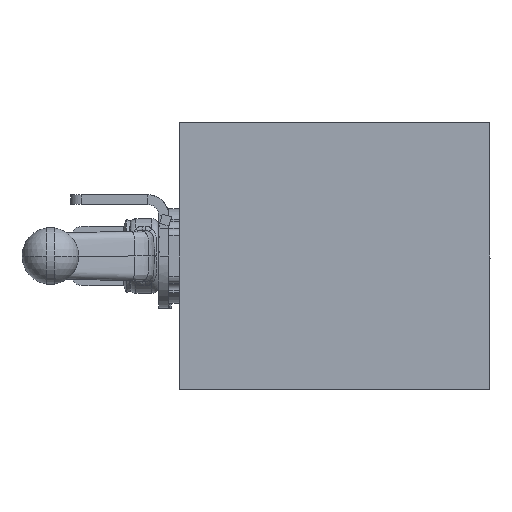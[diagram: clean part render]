
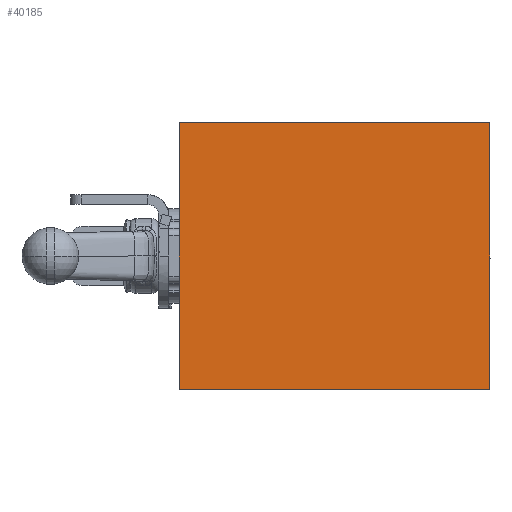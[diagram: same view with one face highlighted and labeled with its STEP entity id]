
A CAD part, left-side view. The second image highlights one B-rep face of the part: STEP entity #40185.
In plain terms, the highlighted planar face has unit normal (-1, 0, 0).
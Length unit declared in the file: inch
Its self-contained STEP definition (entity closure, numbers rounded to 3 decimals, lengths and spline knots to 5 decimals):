
#68 = CARTESIAN_POINT ( 'NONE',  ( 22.34452, 34.26161, 51.85209 ) ) ;
#884 = EDGE_CURVE ( 'NONE', #18408, #36555, #41052, .T. ) ;
#3804 = ORIENTED_EDGE ( 'NONE', *, *, #3879, .T. ) ;
#3879 = EDGE_CURVE ( 'NONE', #32137, #18408, #31018, .T. ) ;
#6045 = ORIENTED_EDGE ( 'NONE', *, *, #17683, .F. ) ;
#6949 = DIRECTION ( 'NONE',  ( 0., 0., 1. ) ) ;
#9610 = CARTESIAN_POINT ( 'NONE',  ( 22.34452, 39.51161, 51.85209 ) ) ;
#10978 = CARTESIAN_POINT ( 'NONE',  ( 22.34452, 39.51161, 51.85209 ) ) ;
#12542 = VECTOR ( 'NONE', #6949, 39.37008 ) ;
#13869 = VECTOR ( 'NONE', #16489, 39.37008 ) ;
#16489 = DIRECTION ( 'NONE',  ( 0., 1., 0. ) ) ;
#17683 = EDGE_CURVE ( 'NONE', #32137, #24845, #41200, .T. ) ;
#18408 = VERTEX_POINT ( 'NONE', #18521 ) ;
#18521 = CARTESIAN_POINT ( 'NONE',  ( 22.34452, 34.26161, 56.35209 ) ) ;
#20773 = PLANE ( 'NONE',  #21966 ) ;
#21022 = DIRECTION ( 'NONE',  ( 0., 0., -1. ) ) ;
#21842 = ORIENTED_EDGE ( 'NONE', *, *, #884, .T. ) ;
#21966 = AXIS2_PLACEMENT_3D ( 'NONE', #68, #37682, #21022 ) ;
#23803 = EDGE_CURVE ( 'NONE', #24845, #36555, #51844, .T. ) ;
#24845 = VERTEX_POINT ( 'NONE', #9610 ) ;
#26974 = CARTESIAN_POINT ( 'NONE',  ( 22.34452, 34.26161, 51.85209 ) ) ;
#29357 = FACE_OUTER_BOUND ( 'NONE', #37132, .T. ) ;
#31018 = LINE ( 'NONE', #26974, #44460 ) ;
#31574 = ORIENTED_EDGE ( 'NONE', *, *, #23803, .F. ) ;
#32137 = VERTEX_POINT ( 'NONE', #50320 ) ;
#32884 = CARTESIAN_POINT ( 'NONE',  ( 22.34452, 34.26161, 51.85209 ) ) ;
#36555 = VERTEX_POINT ( 'NONE', #40715 ) ;
#37132 = EDGE_LOOP ( 'NONE', ( #21842, #31574, #6045, #3804 ) ) ;
#37682 = DIRECTION ( 'NONE',  ( 1., 0., 0. ) ) ;
#40185 = ADVANCED_FACE ( 'NONE', ( #29357 ), #20773, .F. ) ;
#40518 = CARTESIAN_POINT ( 'NONE',  ( 22.34452, 34.26161, 56.35209 ) ) ;
#40715 = CARTESIAN_POINT ( 'NONE',  ( 22.34452, 39.51161, 56.35209 ) ) ;
#41052 = LINE ( 'NONE', #40518, #41749 ) ;
#41200 = LINE ( 'NONE', #32884, #13869 ) ;
#41749 = VECTOR ( 'NONE', #44566, 39.37008 ) ;
#43382 = DIRECTION ( 'NONE',  ( 0., 0., 1. ) ) ;
#44460 = VECTOR ( 'NONE', #43382, 39.37008 ) ;
#44566 = DIRECTION ( 'NONE',  ( 0., 1., 0. ) ) ;
#50320 = CARTESIAN_POINT ( 'NONE',  ( 22.34452, 34.26161, 51.85209 ) ) ;
#51844 = LINE ( 'NONE', #10978, #12542 ) ;
